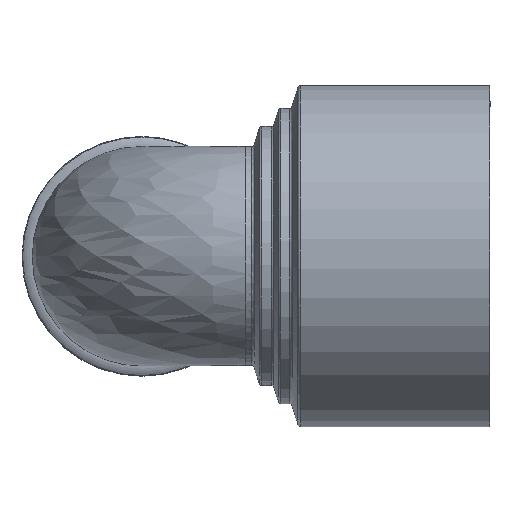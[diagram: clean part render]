
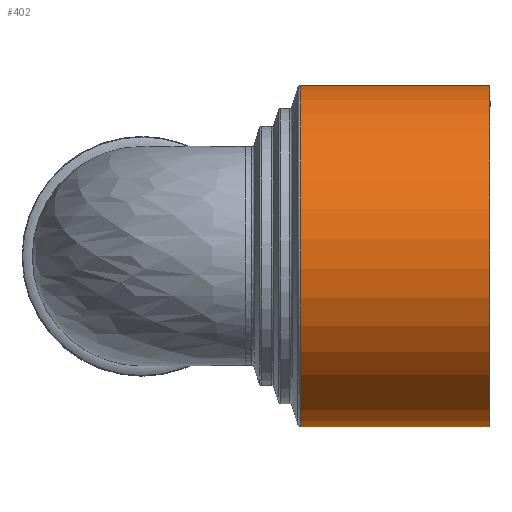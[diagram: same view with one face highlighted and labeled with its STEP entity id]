
A CAD part, top view. The second image highlights one B-rep face of the part: STEP entity #402.
In plain terms, the highlighted cylindrical face has radius 25.075 mm (diameter 50.15 mm), a full revolution.
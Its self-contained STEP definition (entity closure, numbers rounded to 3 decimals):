
#47=CYLINDRICAL_SURFACE($,#469,25.075);
#79=FACE_BOUND($,#170,.T.);
#110=FACE_OUTER_BOUND($,#169,.T.);
#169=EDGE_LOOP($,(#328));
#170=EDGE_LOOP($,(#329));
#204=CIRCLE($,#468,25.075);
#205=CIRCLE($,#470,25.075);
#235=VERTEX_POINT($,#781);
#236=VERTEX_POINT($,#784);
#267=EDGE_CURVE($,#235,#235,#204,.T.);
#268=EDGE_CURVE($,#236,#236,#205,.T.);
#328=ORIENTED_EDGE($,*,*,#267,.T.);
#329=ORIENTED_EDGE($,*,*,#268,.F.);
#402=ADVANCED_FACE($,(#110,#79),#47,.T.);
#468=AXIS2_PLACEMENT_3D($,#782,#595,#596);
#469=AXIS2_PLACEMENT_3D($,#783,#597,#598);
#470=AXIS2_PLACEMENT_3D($,#785,#599,#600);
#595=DIRECTION('center_axis',(1.,0.,0.));
#596=DIRECTION('ref_axis',(0.,1.,0.));
#597=DIRECTION('center_axis',(1.,0.,0.));
#598=DIRECTION('ref_axis',(0.,1.,0.));
#599=DIRECTION('center_axis',(1.,0.,0.));
#600=DIRECTION('ref_axis',(0.,1.,0.));
#781=CARTESIAN_POINT('',(8.09,25.075,0.));
#782=CARTESIAN_POINT('Origin',(8.09,0.,0.));
#783=CARTESIAN_POINT('Origin',(23.35,0.,0.));
#784=CARTESIAN_POINT('',(35.85,25.075,0.));
#785=CARTESIAN_POINT('Origin',(35.85,0.,0.));
